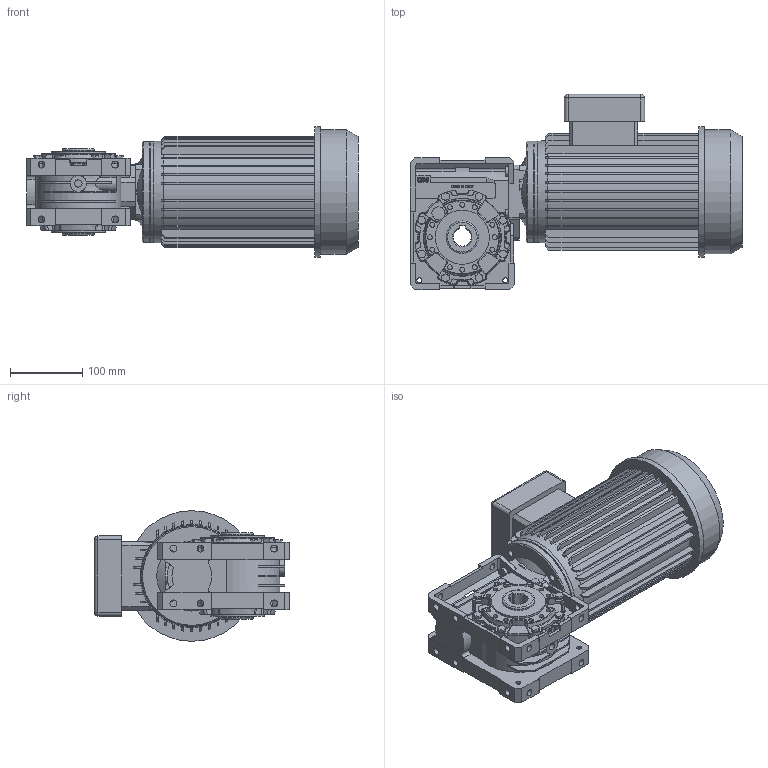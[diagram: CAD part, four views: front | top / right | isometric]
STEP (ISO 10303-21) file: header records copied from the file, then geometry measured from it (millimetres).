
FILE_DESCRIPTION( ( 'Unknown' ), '1' );
FILE_NAME( 'E:/services/configuratordownloads/customers/HYDROMEC/VSFQ/download/B0B9F1A7B501AA29EC15DF45F55DC67/STEP/B0B9F1A7B501AA29EC15DF45F55DC67.3d.stp', 'Unknown', ( 'Unknown' ), ( 'Unknown' ), 'PSStep 10.1', 'Unknown', ' ' );
FILE_SCHEMA( ( 'AUTOMOTIVE_DESIGN { 1 0 10303 214 1 1 1 1 }' ) );
Length unit declared in the file: millimetre
Products named in the file (1): Q638800
Bounding box: 460 x 270.5 x 181 mm (x, y, z)
Volume: 7752394.8 mm3; surface area: 566765.7 mm2
Topology: 1 solids, 14 shells, 1546 faces, 4087 edges, 2660 vertices
Faces by surface type: plane 956, cylinder 375, cone 73, torus 48, extrusion 46, bspline 44, sphere 4
Full cylindrical faces by diameter (mm): 4.917 x8, 6.647 x28, 6.8 x16, 7 x4, 9 x4, 9.5 x16, 10.2 x3, 22.5 x1, 35 x1, 35.5 x1, 45 x2, 47 x2, 75 x1, 95 x1, 140 x1, 172 x1, 181 x1
Entity records: 65341 total; most frequent: CARTESIAN_POINT 15001, DIRECTION 7849, ORIENTED_EDGE 7842, EDGE_CURVE 3921, AXIS2_PLACEMENT_3D 2762, VERTEX_POINT 2606, VECTOR 2325, LINE 2279
